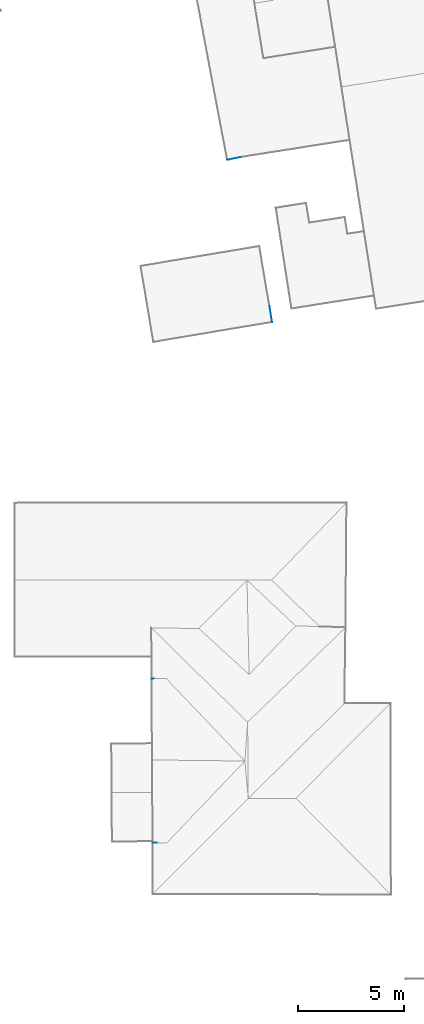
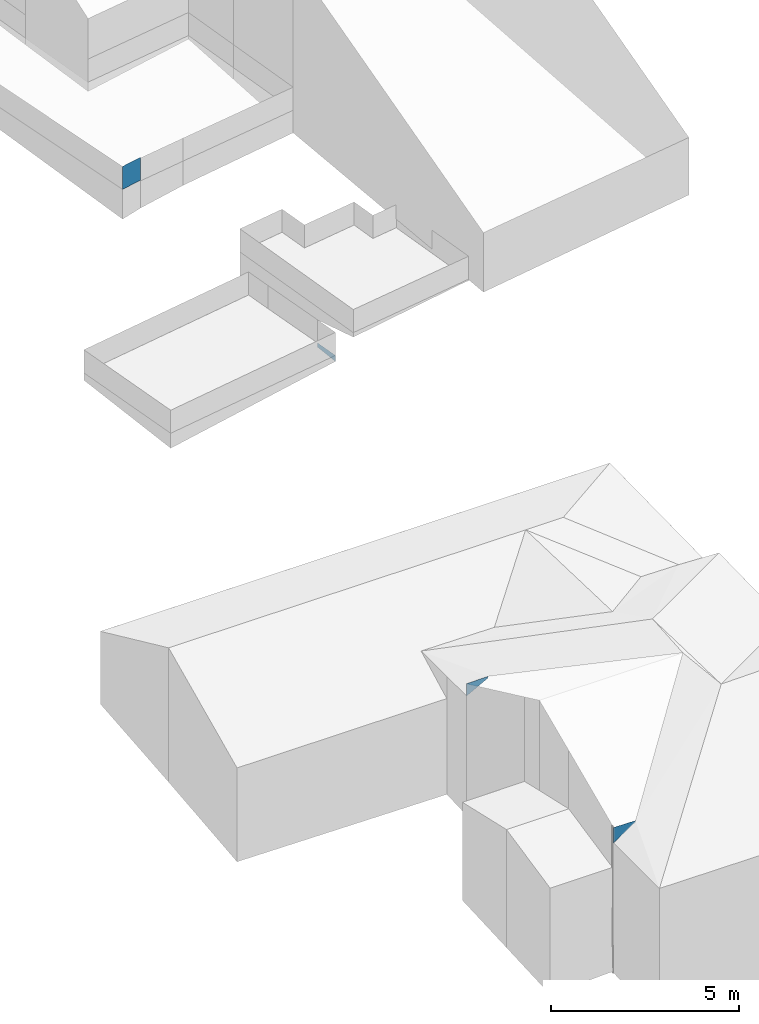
# Not in any storey, part 51 of 59: 5 walls.
"""IFC4 building model written with IfcOpenShell, lengths in metres."""

from ifc_helpers import new_model, entity, si_unit, converted_unit, frame, origin, place, context, subcontext, project, spatial, face_set, surface_model, element, save


model = new_model("IFC4")

# Units and contexts
model_context = context("Model", 3, precision=1e-05, world=origin())
body_context = subcontext(model_context, "Body", "Model", "MODEL_VIEW")
ifc_project = project(units=[converted_unit("PLANEANGLEUNIT", "DEGREE", entity("IfcRatioMeasure", 0.0174532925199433), si_unit("PLANEANGLEUNIT", "RADIAN"), dimensions=[0, 0, 0, 0, 0, 0, 0]), si_unit("AREAUNIT", "SQUARE_METRE"), si_unit("LENGTHUNIT", "METRE")], contexts=[model_context])

# Site, building
site_placement = place(None, origin())
site = spatial("IfcSite", under=ifc_project, at=site_placement, Name="_site")
building_1_placement = place(site_placement, origin())
building_1 = spatial("IfcBuilding", under=site, at=building_1_placement, Name="_building")

# Wall
wall_1_placement = place(building_1_placement, origin())
element("IfcWall", 1, at=wall_1_placement, inside=building_1, Name="Wall", PredefinedType="NOTDEFINED", context=body_context, shape_type="SurfaceModel", body=[
    surface_model("IfcFaceBasedSurfaceModel", [(157.86, 227.33, 218.61), (157.98, 226.59, 218.61), (157.98, 226.59, 218.413), (157.86, 227.33, 218.47)], [face_set([[[0, 1, 2, 3]]])]),
])

# Building
building_2_placement = place(site_placement, origin())
building_2 = spatial("IfcBuilding", under=site, at=building_2_placement, Name="_building")

# Walls
for number, where, name in (
    (2, (0.0, 0.0, 0.0), "Wall"),
    (3, (0.0, 0.0, 0.0), "Wall"),
):
    element("IfcWall", number, at=place(building_2_placement, frame(where)), inside=building_2, Name=name, PredefinedType="NOTDEFINED", context=body_context, shape_type="SurfaceModel", body=[
        surface_model("IfcFaceBasedSurfaceModel", [(156.49, 234.391, 220.101), (155.86, 234.26, 220.101), (155.86, 234.26, 220.851), (156.49, 234.391, 220.851)], [face_set([[[0, 1, 2, 3]]])]),
    ])

# Building
building_3_placement = place(site_placement, origin())
building_3 = spatial("IfcBuilding", under=site, at=building_3_placement, Name="_building")

# Walls
wall_2_placement = place(building_3_placement, origin())
element("IfcWall", 4, at=wall_2_placement, inside=building_3, Name="Wall", PredefinedType="NOTDEFINED", context=body_context, shape_type="SurfaceModel", body=[
    surface_model("IfcFaceBasedSurfaceModel", [(152.29, 209.74, 220.14), (152.96, 209.75, 220.14), (152.96, 209.75, 220.09), (152.29, 209.74, 219.74)], [face_set([[[0, 1, 2, 3]]])]),
])
wall_3_placement = place(building_3_placement, origin())
element("IfcWall", 5, at=wall_3_placement, inside=building_3, Name="Wall", PredefinedType="NOTDEFINED", context=body_context, shape_type="SurfaceModel", body=[
    surface_model("IfcFaceBasedSurfaceModel", [(153.0, 201.971, 220.15), (152.33, 201.971, 220.16), (152.33, 201.971, 219.66), (153.0, 201.971, 220.1)], [face_set([[[0, 1, 2, 3]]])]),
])

save(model, "model.ifc")
